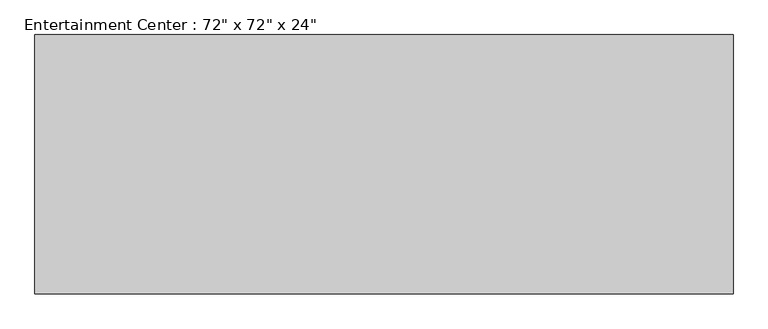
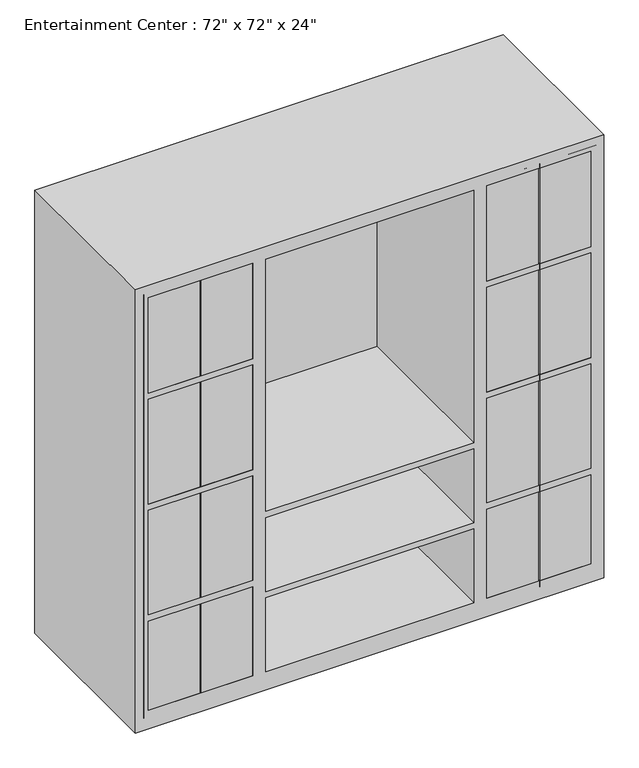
"""IFC4 building model written with IfcOpenShell, lengths in millimetres: furniture geometry."""

from ifc_helpers import new_model, si_unit, point, frame, frame_2d, origin, place, context, project, spatial, polyline, circle_curve, trimmed, segment, composite_curve, outline, extrude, faceted_brep, source, transform, mapped, element, save


def furniture_cf0b6580(model_context):
    return source(origin(), model_context, "Body", "SolidModel", [
        faceted_brep([(914.4, -781.05, 0.0), (914.4, -781.05, 1828.8), (-914.4, -781.05, 1828.8), (-914.4, -781.05, 0.0), (-457.2, -781.05, 1778.0), (-457.2, -781.05, 1384.3), (-863.6, -781.05, 1384.3), (-863.6, -781.05, 1778.0), (-457.2, -781.05, 76.2), (-863.6, -781.05, 76.2), (-863.6, -781.05, 444.5), (-457.2, -781.05, 444.5), (863.6, -781.05, 1384.3), (457.2, -781.05, 1384.3), (457.2, -781.05, 1778.0), (863.6, -781.05, 1778.0), (-406.4, -781.05, 736.6), (-406.4, -781.05, 1778.0), (406.4, -781.05, 1778.0), (406.4, -781.05, 736.6), (406.4, -781.05, 76.2), (-406.4, -781.05, 76.2), (-406.4, -781.05, 381.0), (406.4, -781.05, 381.0), (863.6, -781.05, 76.2), (457.2, -781.05, 76.2), (457.2, -781.05, 444.5), (863.6, -781.05, 444.5), (-863.6, -781.05, 469.9), (-863.6, -781.05, 901.7), (-457.2, -781.05, 901.7), (-457.2, -781.05, 469.9), (-457.2, -781.05, 1358.9), (-457.2, -781.05, 927.1), (-863.6, -781.05, 927.1), (-863.6, -781.05, 1358.9), (457.2, -781.05, 1358.9), (863.6, -781.05, 1358.9), (863.6, -781.05, 927.1), (457.2, -781.05, 927.1), (457.2, -781.05, 901.7), (863.6, -781.05, 901.7), (863.6, -781.05, 469.9), (457.2, -781.05, 469.9), (406.4, -781.05, 406.4), (-406.4, -781.05, 406.4), (-406.4, -781.05, 711.2), (406.4, -781.05, 711.2), (914.4, -101.6, 0.0), (-914.4, -101.6, 0.0), (-914.4, -101.6, 1828.8), (914.4, -101.6, 1828.8), (-457.2, -127.0, 1778.0), (-457.2, -127.0, 1384.3), (-863.6, -127.0, 1384.3), (-863.6, -127.0, 1778.0), (-457.2, -127.0, 76.2), (-863.6, -127.0, 76.2), (-863.6, -127.0, 444.5), (-457.2, -127.0, 444.5), (863.6, -127.0, 1384.3), (457.2, -127.0, 1384.3), (457.2, -127.0, 1778.0), (863.6, -127.0, 1778.0), (-406.4, -127.0, 736.6), (-406.4, -127.0, 1778.0), (406.4, -127.0, 1778.0), (406.4, -127.0, 736.6), (406.4, -127.0, 76.2), (-406.4, -127.0, 76.2), (-406.4, -127.0, 381.0), (406.4, -127.0, 381.0), (863.6, -127.0, 76.2), (457.2, -127.0, 76.2), (457.2, -127.0, 444.5), (863.6, -127.0, 444.5), (-863.6, -127.0, 469.9), (-863.6, -127.0, 901.7), (-457.2, -127.0, 901.7), (-457.2, -127.0, 469.9), (-457.2, -127.0, 1358.9), (-457.2, -127.0, 927.1), (-863.6, -127.0, 927.1), (-863.6, -127.0, 1358.9), (457.2, -127.0, 1358.9), (863.6, -127.0, 1358.9), (863.6, -127.0, 927.1), (457.2, -127.0, 927.1), (457.2, -127.0, 901.7), (863.6, -127.0, 901.7), (863.6, -127.0, 469.9), (457.2, -127.0, 469.9), (406.4, -127.0, 406.4), (-406.4, -127.0, 406.4), (-406.4, -127.0, 711.2), (406.4, -127.0, 711.2)], [[[0, 1, 2, 3], [4, 5, 6, 7], [8, 9, 10, 11], [12, 13, 14, 15], [16, 17, 18, 19], [20, 21, 22, 23], [24, 25, 26, 27], [28, 29, 30, 31], [32, 33, 34, 35], [36, 37, 38, 39], [40, 41, 42, 43], [44, 45, 46, 47]], [[48, 49, 50, 51]], [[1, 0, 48, 51]], [[2, 1, 51, 50]], [[3, 2, 50, 49]], [[0, 3, 49, 48]], [[5, 4, 52, 53]], [[6, 5, 53, 54]], [[7, 6, 54, 55]], [[4, 7, 55, 52]], [[9, 8, 56, 57]], [[10, 9, 57, 58]], [[11, 10, 58, 59]], [[8, 11, 59, 56]], [[13, 12, 60, 61]], [[14, 13, 61, 62]], [[15, 14, 62, 63]], [[12, 15, 63, 60]], [[17, 16, 64, 65]], [[18, 17, 65, 66]], [[19, 18, 66, 67]], [[16, 19, 67, 64]], [[21, 20, 68, 69]], [[22, 21, 69, 70]], [[23, 22, 70, 71]], [[20, 23, 71, 68]], [[25, 24, 72, 73]], [[26, 25, 73, 74]], [[27, 26, 74, 75]], [[24, 27, 75, 72]], [[29, 28, 76, 77]], [[30, 29, 77, 78]], [[31, 30, 78, 79]], [[28, 31, 79, 76]], [[33, 32, 80, 81]], [[34, 33, 81, 82]], [[35, 34, 82, 83]], [[32, 35, 83, 80]], [[37, 36, 84, 85]], [[38, 37, 85, 86]], [[39, 38, 86, 87]], [[36, 39, 87, 84]], [[41, 40, 88, 89]], [[42, 41, 89, 90]], [[43, 42, 90, 91]], [[40, 43, 91, 88]], [[45, 44, 92, 93]], [[46, 45, 93, 94]], [[47, 46, 94, 95]], [[44, 47, 95, 92]], [[53, 52, 55, 54]], [[57, 56, 59, 58]], [[61, 60, 63, 62]], [[65, 64, 67, 66]], [[69, 68, 71, 70]], [[73, 72, 75, 74]], [[77, 76, 79, 78]], [[81, 80, 83, 82]], [[85, 84, 87, 86]], [[89, 88, 91, 90]], [[93, 92, 95, 94]]]),
        extrude(outline(composite_curve([segment(polyline([(1003.3, -632.9986452), (1003.3, -657.225), (825.5, -657.225), (825.5, -632.9986452)]), True, "CONTINUOUS"), segment(trimmed(circle_curve(frame_2d((850.9, -632.9986452)), 25.4), [point((825.5, -632.9986452))], [point((850.9, -607.5986452))], False, "CARTESIAN"), True, "CONTINUOUS"), segment(polyline([(850.9, -607.5986452), (977.9, -607.5986452)]), True, "CONTINUOUS"), segment(trimmed(circle_curve(frame_2d((977.9, -632.9986452)), 25.4), [point((977.9, -607.5986452))], [point((1003.3, -632.9986452))], False, "CARTESIAN"), True, "CONTINUOUS")], self_intersect=False)), frame((0.0, -714.375, 0.0), z_axis=(0.0, 1.0, 0.0), x_axis=(0.0, 0.0, 1.0)), (0.0, 0.0, 1.0), 3.175),
        extrude(outline(composite_curve([segment(trimmed(circle_curve(frame_2d((977.9, -688.18125)), 25.4), [point((1003.3, -688.18125))], [point((977.9, -713.58125))], False, "CARTESIAN"), True, "CONTINUOUS"), segment(polyline([(977.9, -713.58125), (850.9, -713.58125)]), True, "CONTINUOUS"), segment(trimmed(circle_curve(frame_2d((850.9, -688.18125)), 25.4), [point((850.9, -713.58125))], [point((825.5, -688.18125))], False, "CARTESIAN"), True, "CONTINUOUS"), segment(polyline([(825.5, -688.18125), (825.5, -663.575), (1003.3, -663.575), (1003.3, -688.18125)]), True, "CONTINUOUS")], self_intersect=False)), frame((0.0, -714.375, 0.0), z_axis=(0.0, 1.0, 0.0), x_axis=(0.0, 0.0, 1.0)), (0.0, 0.0, 1.0), 3.175),
        extrude(outline(composite_curve([segment(trimmed(circle_curve(frame_2d((977.9, 632.9986452)), 25.4), [point((1003.3, 632.9986452))], [point((977.9, 607.5986452))], False, "CARTESIAN"), True, "CONTINUOUS"), segment(polyline([(977.9, 607.5986452), (850.9, 607.5986452)]), True, "CONTINUOUS"), segment(trimmed(circle_curve(frame_2d((850.9, 632.9986452)), 25.4), [point((850.9, 607.5986452))], [point((825.5, 632.9986452))], False, "CARTESIAN"), True, "CONTINUOUS"), segment(polyline([(825.5, 632.9986452), (825.5, 657.225), (1003.3, 657.225), (1003.3, 632.9986452)]), True, "CONTINUOUS")], self_intersect=False)), frame((0.0, -714.375, 0.0), z_axis=(0.0, 1.0, 0.0), x_axis=(0.0, 0.0, 1.0)), (0.0, 0.0, 1.0), 3.175),
        extrude(outline(composite_curve([segment(polyline([(1003.3, 688.18125), (1003.3, 663.575), (825.5, 663.575), (825.5, 688.18125)]), True, "CONTINUOUS"), segment(trimmed(circle_curve(frame_2d((850.9, 688.18125)), 25.4), [point((825.5, 688.18125))], [point((850.9, 713.58125))], False, "CARTESIAN"), True, "CONTINUOUS"), segment(polyline([(850.9, 713.58125), (977.9, 713.58125)]), True, "CONTINUOUS"), segment(trimmed(circle_curve(frame_2d((977.9, 688.18125)), 25.4), [point((977.9, 713.58125))], [point((1003.3, 688.18125))], False, "CARTESIAN"), True, "CONTINUOUS")], self_intersect=False)), frame((0.0, -714.375, 0.0), z_axis=(0.0, 1.0, 0.0), x_axis=(0.0, 0.0, 1.0)), (0.0, 0.0, 1.0), 3.175),
        extrude(outline(polyline([(-882.65, -711.2), (-663.575, -711.2), (-663.575, -781.05), (-882.65, -781.05), (-882.65, -711.2)])), frame((0.0, 0.0, 50.8), z_axis=(0.0, 0.0, 1.0), x_axis=(1.0, 0.0, 0.0)), (0.0, 0.0, 1.0), 1746.25),
        extrude(outline(polyline([(-657.225, -711.2), (-438.15, -711.2), (-438.15, -781.05), (-657.225, -781.05), (-657.225, -711.2)])), frame((0.0, 0.0, 50.8), z_axis=(0.0, 0.0, 1.0), x_axis=(1.0, 0.0, 0.0)), (0.0, 0.0, 1.0), 1746.25),
        extrude(outline(polyline([(663.575, -711.2), (882.65, -711.2), (882.65, -781.05), (663.575, -781.05), (663.575, -711.2)])), frame((0.0, 0.0, 50.8), z_axis=(0.0, 0.0, 1.0), x_axis=(1.0, 0.0, 0.0)), (0.0, 0.0, 1.0), 1746.25),
        extrude(outline(polyline([(438.15, -711.2), (657.225, -711.2), (657.225, -781.05), (438.15, -781.05), (438.15, -711.2)])), frame((0.0, 0.0, 50.8), z_axis=(0.0, 0.0, 1.0), x_axis=(1.0, 0.0, 0.0)), (0.0, 0.0, 1.0), 1746.25),
    ])


if __name__ == "__main__":
    model = new_model("IFC4")
    model_context = context("Model", 3, world=origin())
    ifc_project = project(units=[si_unit("LENGTHUNIT", "METRE", prefix="MILLI")], contexts=[model_context])
    site = spatial("IfcSite", under=ifc_project)
    building = spatial("IfcBuilding", under=site)
    placement = place(None, origin())
    furniture_shape = furniture_cf0b6580(model_context)
    element("IfcFurniture", 1, ObjectType="Entertainment Center : 72\" x 72\" x 24\"", at=placement, inside=building, context=model_context, shape_type="MappedRepresentation", body=[
        mapped(furniture_shape, transform((0.0, 0.0, 0.0), x_axis=(1.0, 0.0, 0.0), y_axis=(0.0, 1.0, 0.0), z_axis=(0.0, 0.0, 1.0))),
    ])
    save(model, "model.ifc")
